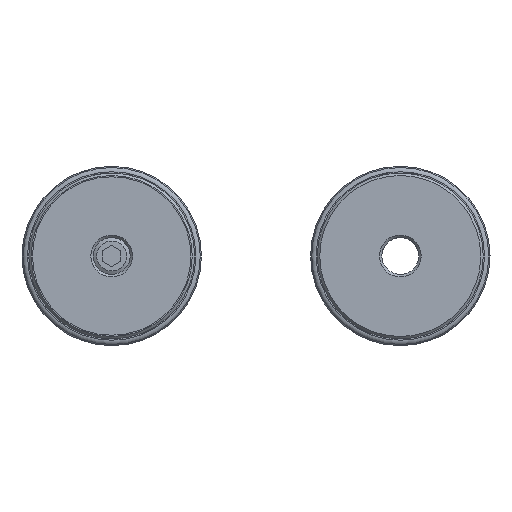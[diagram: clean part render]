
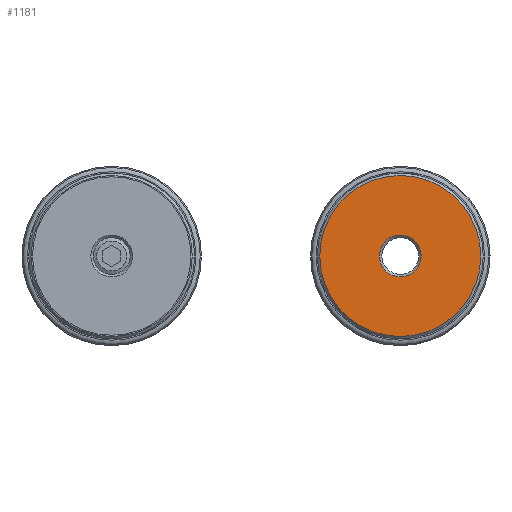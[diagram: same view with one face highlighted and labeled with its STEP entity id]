
A CAD part, left-side view. The second image highlights one B-rep face of the part: STEP entity #1181.
In plain terms, the highlighted planar face has unit normal (-1, 0, 0).
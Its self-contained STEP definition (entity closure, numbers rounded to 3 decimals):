
#1181 = ADVANCED_FACE( 'NONE', ( #1792, #1793 ), #1794, .F. );
#1792 = FACE_OUTER_BOUND( '', #2045, .T. );
#1793 = FACE_BOUND( '', #2046, .T. );
#1794 = PLANE( '', #2047 );
#2045 = EDGE_LOOP( '', ( #2406 ) );
#2046 = EDGE_LOOP( '', ( #2407 ) );
#2047 = AXIS2_PLACEMENT_3D( '', #2408, #2409, #2410 );
#2406 = ORIENTED_EDGE( '', *, *, #2810, .T. );
#2407 = ORIENTED_EDGE( '', *, *, #2802, .T. );
#2408 = CARTESIAN_POINT( '', ( 0., 1.5, 0. ) );
#2409 = DIRECTION( '', ( 1., 0., 0. ) );
#2410 = DIRECTION( '', ( 0., 1., 0. ) );
#2802 = EDGE_CURVE( 'NONE', #3127, #3127, #3128, .T. );
#2810 = EDGE_CURVE( 'NONE', #3143, #3143, #3144, .F. );
#3127 = VERTEX_POINT( '', #3189 );
#3128 = CIRCLE( '', #3190, 1.7 );
#3143 = VERTEX_POINT( '', #3254 );
#3144 = CIRCLE( '', #3255, 6.55 );
#3189 = CARTESIAN_POINT( '', ( 0., 0., -1.7 ) );
#3190 = AXIS2_PLACEMENT_3D( '', #3320, #3321, #3322 );
#3254 = CARTESIAN_POINT( '', ( 0., 0., -6.55 ) );
#3255 = AXIS2_PLACEMENT_3D( '', #3341, #3342, #3343 );
#3320 = CARTESIAN_POINT( '', ( 0., 0., 0. ) );
#3321 = DIRECTION( '', ( 1., 0., 0. ) );
#3322 = DIRECTION( '', ( 0., 0., -1. ) );
#3341 = CARTESIAN_POINT( '', ( 0., 0., 0. ) );
#3342 = DIRECTION( '', ( 1., 0., 0. ) );
#3343 = DIRECTION( '', ( 0., 0., -1. ) );
